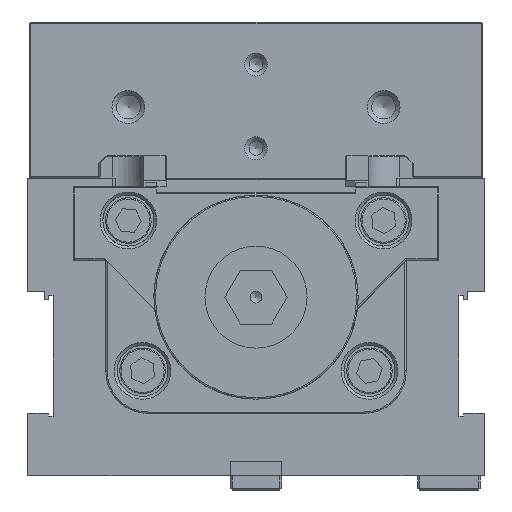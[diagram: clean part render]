
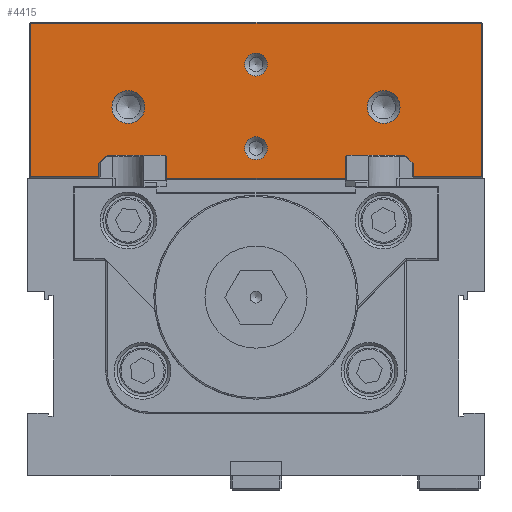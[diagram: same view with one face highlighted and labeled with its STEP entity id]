
A CAD part, left-side view. The second image highlights one B-rep face of the part: STEP entity #4415.
In plain terms, the highlighted planar face has unit normal (-1, 0, 0) as drawn and (0, -1, 0) by its records, which use the part's own axes.
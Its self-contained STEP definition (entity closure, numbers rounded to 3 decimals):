
#4415=ADVANCED_FACE('',(#13311,#13313,#13315,#13317,#13319),#13321,.T.);
#13311=FACE_BOUND('',#13312,.T.);
#13312=EDGE_LOOP('',(#25494,#25495,#25496,#25497,#25498,#25499,#25500,#25501));
#13313=FACE_BOUND('',#13314,.T.);
#13314=EDGE_LOOP('',(#25502));
#13315=FACE_BOUND('',#13316,.T.);
#13316=EDGE_LOOP('',(#25503));
#13317=FACE_BOUND('',#13318,.T.);
#13318=EDGE_LOOP('',(#25504));
#13319=FACE_BOUND('',#13320,.T.);
#13320=EDGE_LOOP('',(#25505));
#13321=PLANE('',#13322);
#13322=AXIS2_PLACEMENT_3D('',#13323,#13324,#13325);
#13323=CARTESIAN_POINT('',(-160.,0.,0.));
#13324=DIRECTION('',(0.,-1.,0.));
#13325=DIRECTION('',(0.,0.,-1.));
#25494=ORIENTED_EDGE('',*,*,#31647,.F.);
#25495=ORIENTED_EDGE('',*,*,#31648,.F.);
#25496=ORIENTED_EDGE('',*,*,#31649,.T.);
#25497=ORIENTED_EDGE('',*,*,#31650,.T.);
#25498=ORIENTED_EDGE('',*,*,#31613,.T.);
#25499=ORIENTED_EDGE('',*,*,#31637,.F.);
#25500=ORIENTED_EDGE('',*,*,#31629,.F.);
#25501=ORIENTED_EDGE('',*,*,#31651,.T.);
#25502=ORIENTED_EDGE('',*,*,#31652,.T.);
#25503=ORIENTED_EDGE('',*,*,#31653,.T.);
#25504=ORIENTED_EDGE('',*,*,#31654,.T.);
#25505=ORIENTED_EDGE('',*,*,#31655,.T.);
#31613=EDGE_CURVE('',#35653,#35651,#35654,.T.);
#31629=EDGE_CURVE('',#35681,#35683,#35684,.T.);
#31637=EDGE_CURVE('',#35683,#35651,#35693,.T.);
#31647=EDGE_CURVE('',#35711,#35712,#35713,.T.);
#31648=EDGE_CURVE('',#35714,#35711,#35715,.T.);
#31649=EDGE_CURVE('',#35714,#35716,#35717,.T.);
#31650=EDGE_CURVE('',#35716,#35653,#35718,.T.);
#31651=EDGE_CURVE('',#35681,#35712,#35719,.T.);
#31652=EDGE_CURVE('',#35720,#35720,#35721,.F.);
#31653=EDGE_CURVE('',#35722,#35722,#35723,.F.);
#31654=EDGE_CURVE('',#35724,#35724,#35725,.F.);
#31655=EDGE_CURVE('',#35726,#35726,#35727,.F.);
#35651=VERTEX_POINT('',#47547);
#35653=VERTEX_POINT('',#47551);
#35654=LINE('',#47552,#47553);
#35681=VERTEX_POINT('',#47611);
#35683=VERTEX_POINT('',#47615);
#35684=LINE('',#47616,#47617);
#35693=LINE('',#47642,#47643);
#35711=VERTEX_POINT('',#47684);
#35712=VERTEX_POINT('',#47685);
#35713=LINE('',#47686,#47687);
#35714=VERTEX_POINT('',#47689);
#35715=LINE('',#47690,#47691);
#35716=VERTEX_POINT('',#47693);
#35717=LINE('',#47694,#47695);
#35718=LINE('',#47697,#47698);
#35719=LINE('',#47700,#47701);
#35720=VERTEX_POINT('',#47703);
#35721=CIRCLE('',#47704,4.059);
#35722=VERTEX_POINT('',#47708);
#35723=CIRCLE('',#47709,5.788);
#35724=VERTEX_POINT('',#47713);
#35725=CIRCLE('',#47714,5.788);
#35726=VERTEX_POINT('',#47718);
#35727=CIRCLE('',#47719,4.059);
#47547=CARTESIAN_POINT('',(-120.25,0.,-55.1));
#47551=CARTESIAN_POINT('',(-120.25,0.,-54.5));
#47552=CARTESIAN_POINT('',(-120.25,0.,-54.5));
#47553=VECTOR('',#47554,1.);
#47554=DIRECTION('',(0.,0.,-1.));
#47611=CARTESIAN_POINT('',(-39.75,0.,-54.5));
#47615=CARTESIAN_POINT('',(-39.75,0.,-55.1));
#47616=CARTESIAN_POINT('',(-39.75,0.,-54.5));
#47617=VECTOR('',#47618,1.);
#47618=DIRECTION('',(0.,0.,-1.));
#47642=CARTESIAN_POINT('',(-39.75,0.,-55.1));
#47643=VECTOR('',#47644,1.);
#47644=DIRECTION('',(-1.,0.,0.));
#47684=CARTESIAN_POINT('',(-0.5,0.,-0.5));
#47685=CARTESIAN_POINT('',(-0.5,0.,-54.5));
#47686=CARTESIAN_POINT('',(-0.5,0.,-0.5));
#47687=VECTOR('',#47688,1.);
#47688=DIRECTION('',(0.,0.,-1.));
#47689=CARTESIAN_POINT('',(-159.5,0.,-0.5));
#47690=CARTESIAN_POINT('',(-159.5,0.,-0.5));
#47691=VECTOR('',#47692,1.);
#47692=DIRECTION('',(1.,0.,0.));
#47693=CARTESIAN_POINT('',(-159.5,0.,-54.5));
#47694=CARTESIAN_POINT('',(-159.5,0.,-0.5));
#47695=VECTOR('',#47696,1.);
#47696=DIRECTION('',(0.,0.,-1.));
#47697=CARTESIAN_POINT('',(-159.5,0.,-54.5));
#47698=VECTOR('',#47699,1.);
#47699=DIRECTION('',(1.,0.,0.));
#47700=CARTESIAN_POINT('',(-39.75,0.,-54.5));
#47701=VECTOR('',#47702,1.);
#47702=DIRECTION('',(1.,0.,0.));
#47703=CARTESIAN_POINT('',(-75.941,0.,-15.));
#47704=AXIS2_PLACEMENT_3D('',#47705,#47706,#47707);
#47705=CARTESIAN_POINT('',(-80.,0.,-15.));
#47706=DIRECTION('',(0.,-1.,0.));
#47707=DIRECTION('',(1.,0.,0.));
#47708=CARTESIAN_POINT('',(-29.212,0.,-30.));
#47709=AXIS2_PLACEMENT_3D('',#47710,#47711,#47712);
#47710=CARTESIAN_POINT('',(-35.,0.,-30.));
#47711=DIRECTION('',(0.,-1.,0.));
#47712=DIRECTION('',(1.,0.,0.));
#47713=CARTESIAN_POINT('',(-119.212,0.,-30.));
#47714=AXIS2_PLACEMENT_3D('',#47715,#47716,#47717);
#47715=CARTESIAN_POINT('',(-125.,0.,-30.));
#47716=DIRECTION('',(0.,-1.,0.));
#47717=DIRECTION('',(1.,0.,0.));
#47718=CARTESIAN_POINT('',(-75.941,0.,-44.5));
#47719=AXIS2_PLACEMENT_3D('',#47720,#47721,#47722);
#47720=CARTESIAN_POINT('',(-80.,0.,-44.5));
#47721=DIRECTION('',(0.,-1.,0.));
#47722=DIRECTION('',(1.,0.,0.));
